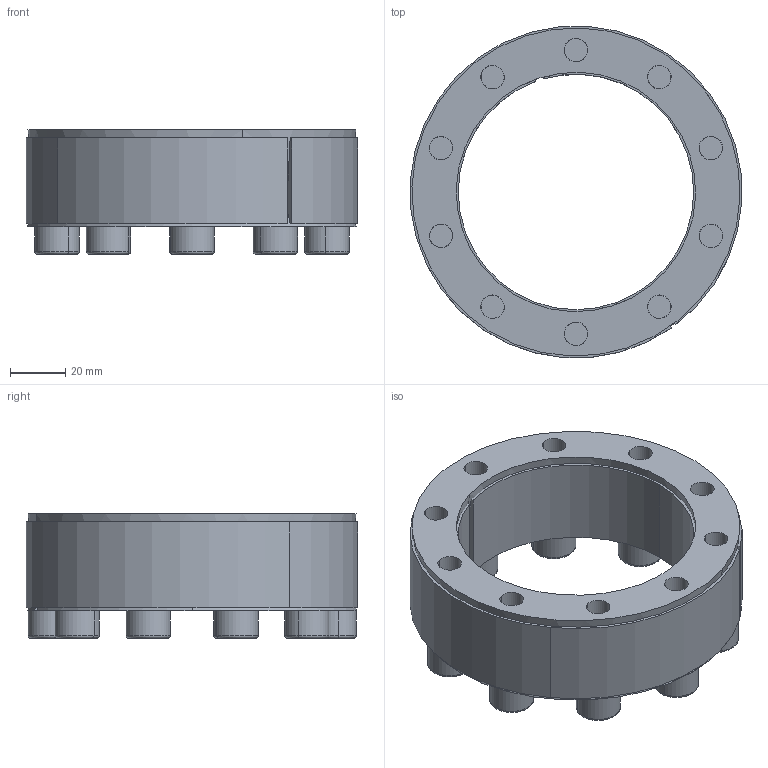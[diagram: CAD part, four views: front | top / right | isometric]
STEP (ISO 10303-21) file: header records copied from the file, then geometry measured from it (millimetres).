
FILE_DESCRIPTION (( 'STEP AP214' ), '1' );
FILE_NAME ('CONEX-L-85x120.step', '2013-04-06T13:23:28', ( 'Pc' ), ( '' ), 'SwSTEP 2.0', 'SolidWorks 2013', '' );
FILE_SCHEMA (( 'AUTOMOTIVE_DESIGN' ));
Length unit declared in the file: millimetre
Products named in the file (1): CONEX-L-85x120
Bounding box: 119.7 x 119.63 x 45.03 mm (x, y, z)
Volume: 187584.2 mm3; surface area: 98370.8 mm2
Topology: 13 solids, 13 shells, 353 faces, 809 edges, 482 vertices
Faces by surface type: plane 161, cylinder 96, cone 56, torus 40
Entity records: 13937 total; most frequent: DIRECTION 1870, CARTESIAN_POINT 1661, ORIENTED_EDGE 1578, EDGE_CURVE 789, AXIS2_PLACEMENT_3D 735, VERTEX_POINT 482, EDGE_LOOP 425, VECTOR 400
